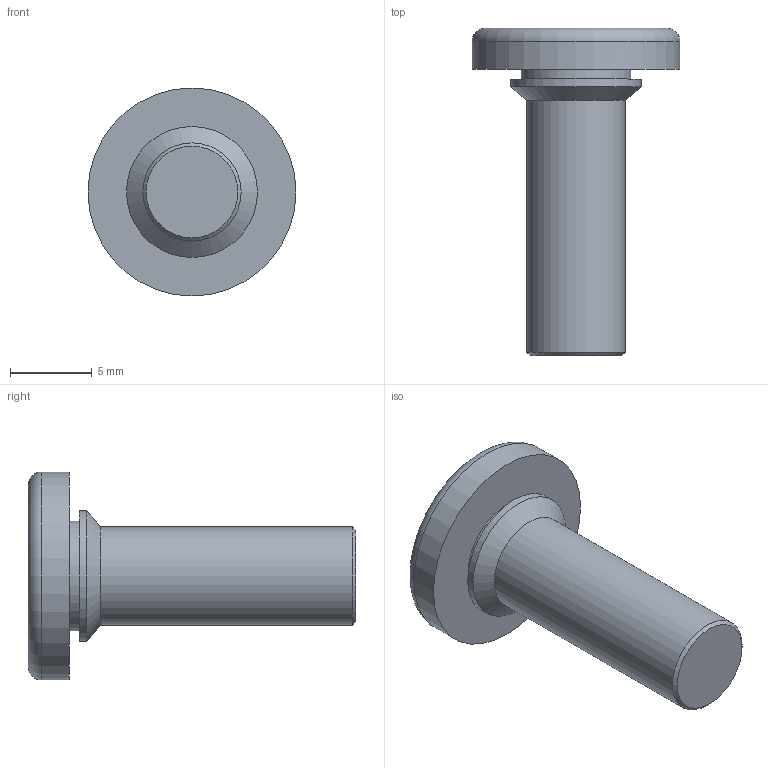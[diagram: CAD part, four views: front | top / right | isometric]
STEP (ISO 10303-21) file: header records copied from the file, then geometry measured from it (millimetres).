
FILE_DESCRIPTION(/* description */ (''),/* implementation_level */ '2;1');
FILE_NAME(/* name */ 'C:\Users\keval.kumar\Desktop\Fastit\Press Screw\M6\Press Screw_M6 x20.stp',/* time_stamp */ '2024-03-12T17:40:35+05:00',/* author */ ('keval.kumar'),/* organization */ (''),/* preprocessor_version */ 'ST-DEVELOPER v18.1',/* originating_system */ 'Autodesk Inventor 2022',/* authorisation */ '');
FILE_SCHEMA (('AUTOMOTIVE_DESIGN { 1 0 10303 214 3 1 1 }'));
Length unit declared in the file: millimetre
Products named in the file (1): Press Screw_M6 x20
Bounding box: 12.7 x 20 x 12.7 mm (x, y, z)
Volume: 828.9 mm3; surface area: 691.9 mm2
Topology: 1 solids, 1 shells, 11 faces, 19 edges, 12 vertices
Faces by surface type: cylinder 4, plane 4, cone 2, torus 1
Full cylindrical faces by diameter (mm): 6 x1, 6.7 x1, 8 x1, 12.7 x1
Entity records: 313 total; most frequent: DIRECTION 56, CARTESIAN_POINT 43, ORIENTED_EDGE 38, AXIS2_PLACEMENT_3D 25, EDGE_CURVE 19, EDGE_LOOP 13, CIRCLE 13, VERTEX_POINT 12
